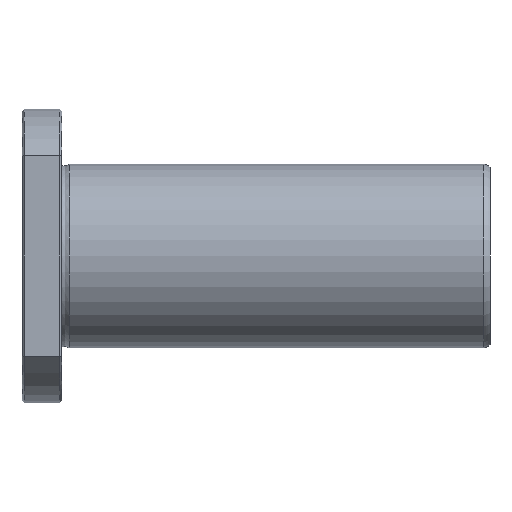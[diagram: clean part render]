
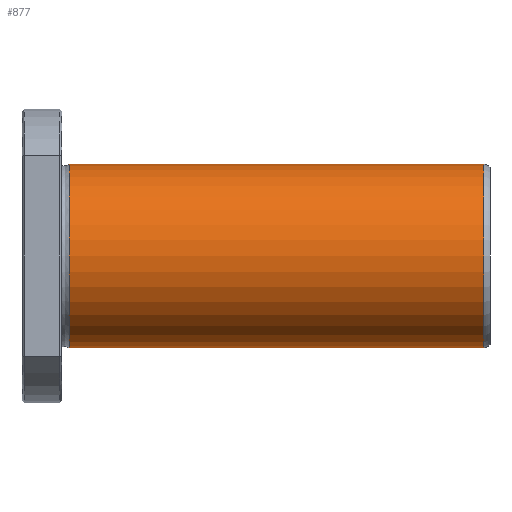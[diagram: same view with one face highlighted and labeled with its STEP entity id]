
A CAD part, front view. The second image highlights one B-rep face of the part: STEP entity #877.
In plain terms, the highlighted cylindrical face has radius 30 mm (diameter 60 mm), a full revolution.
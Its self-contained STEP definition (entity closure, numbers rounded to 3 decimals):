
#843=CARTESIAN_POINT('',(151.016,0.0,30.));
#844=VERTEX_POINT('',#843);
#845=CARTESIAN_POINT('',(151.016,0.0,0.0));
#846=DIRECTION('',(-1.0,0.0,0.0));
#847=DIRECTION('',(0.0,0.0,1.0));
#848=AXIS2_PLACEMENT_3D('',#845,#846,#847);
#849=CIRCLE('',#848,30.);
#850=EDGE_CURVE('',#844,#844,#849,.T.);
#858=CARTESIAN_POINT('',(83.208,0.0,0.0));
#859=DIRECTION('',(-1.0,0.0,0.0));
#860=DIRECTION('',(0.0,0.0,1.0));
#861=AXIS2_PLACEMENT_3D('',#858,#859,#860);
#862=CYLINDRICAL_SURFACE('',#861,30.);
#863=CARTESIAN_POINT('',(15.4,0.0,30.0));
#864=VERTEX_POINT('',#863);
#865=CARTESIAN_POINT('',(15.4,0.0,0.0));
#866=DIRECTION('',(-1.0,0.0,0.0));
#867=DIRECTION('',(0.0,0.0,1.0));
#868=AXIS2_PLACEMENT_3D('',#865,#866,#867);
#869=CIRCLE('',#868,30.0);
#870=EDGE_CURVE('',#864,#864,#869,.T.);
#871=ORIENTED_EDGE('',*,*,#870,.F.);
#872=EDGE_LOOP('',(#871));
#873=FACE_OUTER_BOUND('',#872,.T.);
#874=ORIENTED_EDGE('',*,*,#850,.T.);
#875=EDGE_LOOP('',(#874));
#876=FACE_BOUND('',#875,.T.);
#877=ADVANCED_FACE('',(#873,#876),#862,.T.);
